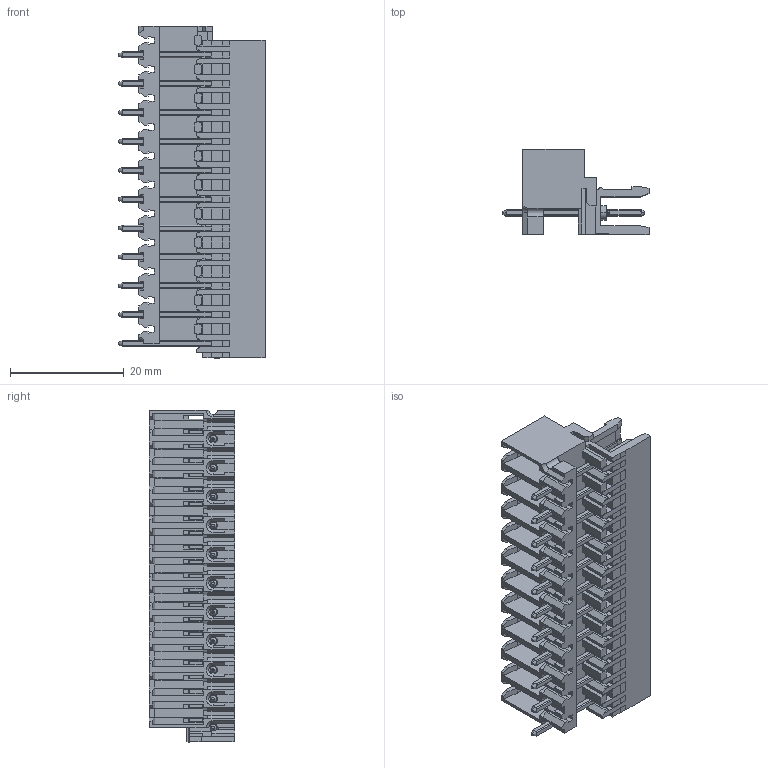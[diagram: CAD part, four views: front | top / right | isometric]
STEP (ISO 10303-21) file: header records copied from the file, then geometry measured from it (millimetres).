
FILE_DESCRIPTION (( 'STEP AP214' ), '1' );
FILE_NAME ('121-M-191-11.STEP', '2009-05-13T03:13:02', ( ' ' ), ( '' ), 'SwSTEP 2.0', 'SolidWorks 2007', '' );
FILE_SCHEMA (( 'AUTOMOTIVE_DESIGN' ));
Length unit declared in the file: millimetre
Products named in the file (1): 121-M-191-11
Bounding box: 25.7 x 15 x 58.42 mm (x, y, z)
Volume: 5579.7 mm3; surface area: 12281.9 mm2
Topology: 1 solids, 1 shells, 2124 faces, 6648 edges, 4301 vertices
Faces by surface type: plane 1980, cylinder 77, cone 67
Entity records: 73012 total; most frequent: CARTESIAN_POINT 14243, ORIENTED_EDGE 13256, DIRECTION 10857, EDGE_CURVE 6628, VECTOR 6143, LINE 6143, VERTEX_POINT 4291, AXIS2_PLACEMENT_3D 2357
